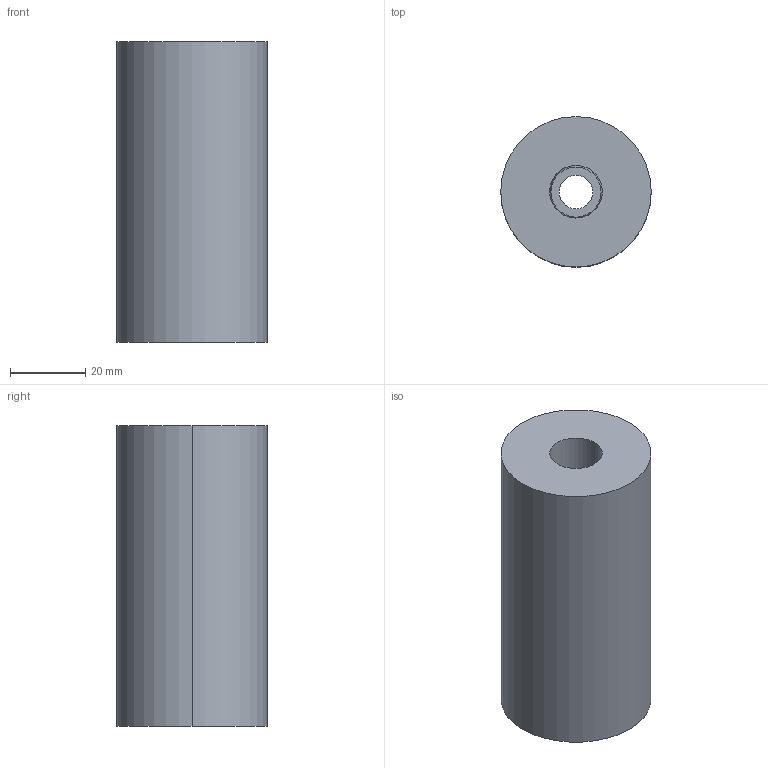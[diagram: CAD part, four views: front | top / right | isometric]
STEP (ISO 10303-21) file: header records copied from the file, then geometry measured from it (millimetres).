
FILE_DESCRIPTION(/* description */ (''),/* implementation_level */ '2;1');
FILE_NAME(/* name */ '3d_est40-80_07015_r00.stp',/* time_stamp */ '2011-01-10T14:15:39+09:00',/* author */ ('MISUMI'),/* organization */ (''),/* preprocessor_version */ 'ST-DEVELOPER v11',/* originating_system */ 'UGS - NX 5.0',/* authorisation */ '');
FILE_SCHEMA (('CONFIG_CONTROL_DESIGN'));
Length unit declared in the file: millimetre
Products named in the file (1): 3d_est40-80_07015_r00
Bounding box: 40 x 40 x 80 mm (x, y, z)
Volume: 92156.2 mm3; surface area: 18397 mm2
Topology: 2 solids, 2 shells, 19 faces, 38 edges, 24 vertices
Faces by surface type: cylinder 10, plane 5, cone 4
Entity records: 596 total; most frequent: DIRECTION 102, CARTESIAN_POINT 82, ORIENTED_EDGE 76, AXIS2_PLACEMENT_3D 44, EDGE_CURVE 38, EDGE_LOOP 24, VERTEX_POINT 24, CIRCLE 24
